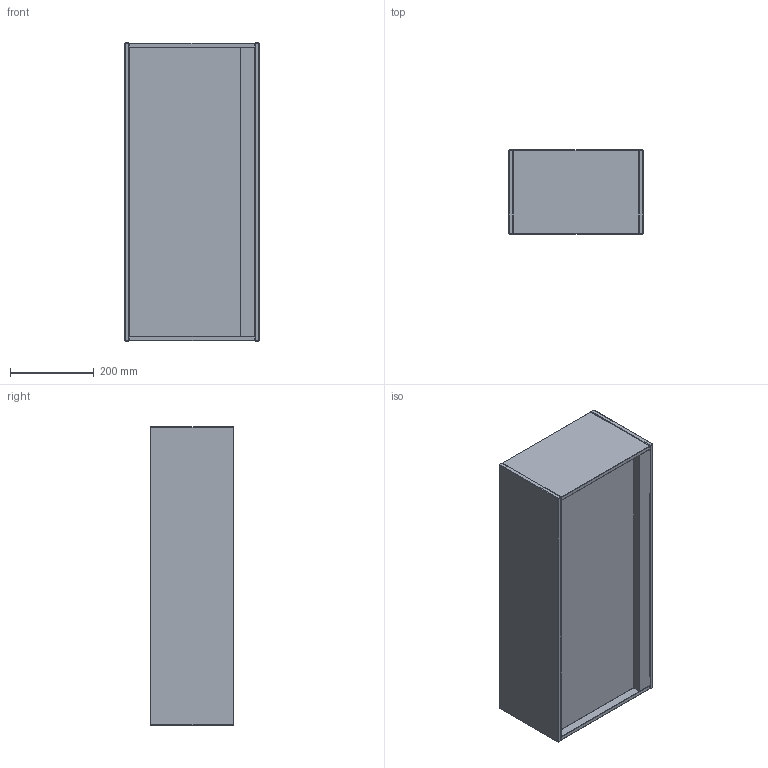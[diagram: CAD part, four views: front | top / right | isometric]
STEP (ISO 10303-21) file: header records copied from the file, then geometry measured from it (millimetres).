
FILE_DESCRIPTION (( 'STEP AP203' ), '1' );
FILE_NAME ('H2-C-32-shell-drawing.STEP', '2024-10-17T07:43:11', ( '' ), ( '' ), 'SwSTEP 2.0', 'SolidWorks 2024', '' );
FILE_SCHEMA (( 'CONFIG_CONTROL_DESIGN' ));
Length unit declared in the file: millimetre
Products named in the file (5): H2-C-32-shell-drawing; Topp-Botten-300x200x10; Lucka-300x690x10; Handtag-690x35x20; Sida-712x200x10
Assembly tree (6 placements, depth 2):
  H2-C-32-shell-drawing
    Topp-Botten-300x200x10  x2
    Sida-712x200x10  x2
    Lucka-300x690x10
    Handtag-690x35x20
Bounding box: 320 x 200 x 712 mm (x, y, z)
Volume: 6597689.8 mm3; surface area: 1370540.6 mm2
Topology: 6 solids, 6 shells, 136 faces, 292 edges, 128 vertices
Faces by surface type: cylinder 60, sphere 40, plane 36
Entity records: 2603 total; most frequent: DIRECTION 414, CARTESIAN_POINT 329, ORIENTED_EDGE 312, AXIS2_PLACEMENT_3D 165, EDGE_CURVE 156, LINE 84, EDGE_LOOP 84, VECTOR 84
